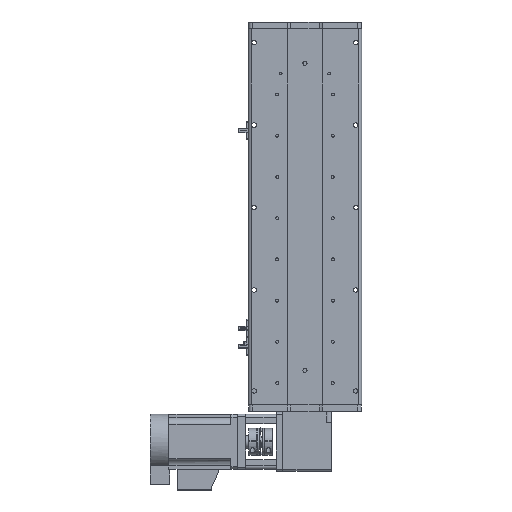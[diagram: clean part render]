
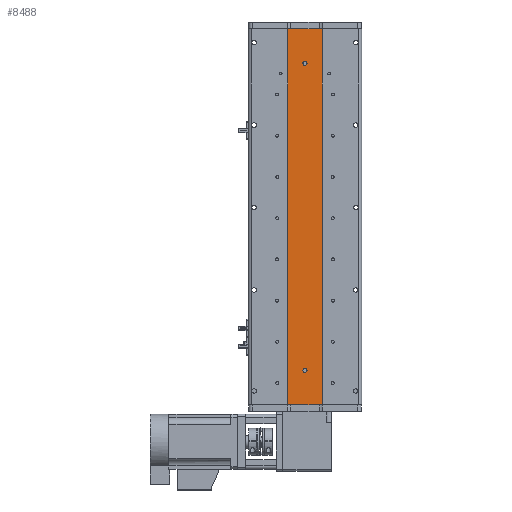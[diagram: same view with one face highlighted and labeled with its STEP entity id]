
A CAD part, front view. The second image highlights one B-rep face of the part: STEP entity #8488.
In plain terms, the highlighted planar face has unit normal (0, -1, 0).
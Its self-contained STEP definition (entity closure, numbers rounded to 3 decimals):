
#210 = AXIS2_PLACEMENT_3D ( 'NONE', #9228, #33561, #12746 ) ;
#1092 = EDGE_CURVE ( 'NONE', #10243, #5296, #36604, .T. ) ;
#2241 = ORIENTED_EDGE ( 'NONE', *, *, #38727, .T. ) ;
#3009 = ORIENTED_EDGE ( 'NONE', *, *, #25254, .T. ) ;
#3156 = CARTESIAN_POINT ( 'NONE',  ( 0., 1., -226.5 ) ) ;
#3469 = ORIENTED_EDGE ( 'NONE', *, *, #24390, .T. ) ;
#4896 = VERTEX_POINT ( 'NONE', #38586 ) ;
#5296 = VERTEX_POINT ( 'NONE', #20819 ) ;
#5843 = ORIENTED_EDGE ( 'NONE', *, *, #13680, .T. ) ;
#6695 = DIRECTION ( 'NONE',  ( 0., 1., 0. ) ) ;
#7777 = CARTESIAN_POINT ( 'NONE',  ( -25., 1., 273.5 ) ) ;
#7788 = EDGE_LOOP ( 'NONE', ( #2241, #31061, #34557, #3469 ) ) ;
#8463 = CARTESIAN_POINT ( 'NONE',  ( 0., 1., 223.5 ) ) ;
#8488 = ADVANCED_FACE ( 'NONE', ( #26025, #34141, #33056 ), #23901, .F. ) ;
#8879 = VECTOR ( 'NONE', #13019, 1000. ) ;
#9228 = CARTESIAN_POINT ( 'NONE',  ( 0., 1., -223.5 ) ) ;
#9538 = CARTESIAN_POINT ( 'NONE',  ( 25., 1., 273.5 ) ) ;
#10210 = CARTESIAN_POINT ( 'NONE',  ( 0., 1., 223.5 ) ) ;
#10243 = VERTEX_POINT ( 'NONE', #24874 ) ;
#11681 = EDGE_LOOP ( 'NONE', ( #3009, #5843 ) ) ;
#11967 = DIRECTION ( 'NONE',  ( 0., 0., 1. ) ) ;
#12746 = DIRECTION ( 'NONE',  ( 0., 0., 1. ) ) ;
#13019 = DIRECTION ( 'NONE',  ( 1., 0., 0. ) ) ;
#13456 = VERTEX_POINT ( 'NONE', #41421 ) ;
#13680 = EDGE_CURVE ( 'NONE', #16143, #19004, #37270, .T. ) ;
#13695 = DIRECTION ( 'NONE',  ( 0., 0., 1. ) ) ;
#14138 = EDGE_LOOP ( 'NONE', ( #35001, #33245 ) ) ;
#14156 = DIRECTION ( 'NONE',  ( 0., 1., 0. ) ) ;
#14832 = CARTESIAN_POINT ( 'NONE',  ( 25., 1., -273.5 ) ) ;
#15336 = VECTOR ( 'NONE', #22544, 1000. ) ;
#16143 = VERTEX_POINT ( 'NONE', #28410 ) ;
#16293 = LINE ( 'NONE', #42711, #24448 ) ;
#16408 = LINE ( 'NONE', #32535, #15336 ) ;
#17692 = CIRCLE ( 'NONE', #24557, 3. ) ;
#17955 = AXIS2_PLACEMENT_3D ( 'NONE', #24055, #6695, #30999 ) ;
#18817 = AXIS2_PLACEMENT_3D ( 'NONE', #34975, #14156, #38426 ) ;
#19004 = VERTEX_POINT ( 'NONE', #3156 ) ;
#20819 = CARTESIAN_POINT ( 'NONE',  ( 25., 1., 273.5 ) ) ;
#21638 = DIRECTION ( 'NONE',  ( 0., 0., -1. ) ) ;
#22544 = DIRECTION ( 'NONE',  ( 0., 0., -1. ) ) ;
#23092 = AXIS2_PLACEMENT_3D ( 'NONE', #10210, #34509, #13695 ) ;
#23280 = CIRCLE ( 'NONE', #18817, 3. ) ;
#23355 = VECTOR ( 'NONE', #21638, 1000. ) ;
#23901 = PLANE ( 'NONE',  #17955 ) ;
#24055 = CARTESIAN_POINT ( 'NONE',  ( 25., 1., 273.5 ) ) ;
#24390 = EDGE_CURVE ( 'NONE', #10243, #4896, #42842, .T. ) ;
#24448 = VECTOR ( 'NONE', #39359, 1000. ) ;
#24557 = AXIS2_PLACEMENT_3D ( 'NONE', #8463, #32787, #11967 ) ;
#24643 = VERTEX_POINT ( 'NONE', #36774 ) ;
#24874 = CARTESIAN_POINT ( 'NONE',  ( -25., 1., 273.5 ) ) ;
#25254 = EDGE_CURVE ( 'NONE', #19004, #16143, #23280, .T. ) ;
#26025 = FACE_BOUND ( 'NONE', #11681, .T. ) ;
#27067 = CIRCLE ( 'NONE', #23092, 3. ) ;
#28410 = CARTESIAN_POINT ( 'NONE',  ( 0., 1., -220.5 ) ) ;
#29875 = EDGE_CURVE ( 'NONE', #5296, #41802, #16408, .T. ) ;
#30999 = DIRECTION ( 'NONE',  ( 0., 0., 1. ) ) ;
#31061 = ORIENTED_EDGE ( 'NONE', *, *, #29875, .F. ) ;
#32535 = CARTESIAN_POINT ( 'NONE',  ( 25., 1., 273.5 ) ) ;
#32787 = DIRECTION ( 'NONE',  ( 0., 1., 0. ) ) ;
#33056 = FACE_OUTER_BOUND ( 'NONE', #7788, .T. ) ;
#33245 = ORIENTED_EDGE ( 'NONE', *, *, #42262, .T. ) ;
#33561 = DIRECTION ( 'NONE',  ( 0., 1., 0. ) ) ;
#34141 = FACE_BOUND ( 'NONE', #14138, .T. ) ;
#34509 = DIRECTION ( 'NONE',  ( 0., 1., 0. ) ) ;
#34557 = ORIENTED_EDGE ( 'NONE', *, *, #1092, .F. ) ;
#34975 = CARTESIAN_POINT ( 'NONE',  ( 0., 1., -223.5 ) ) ;
#35001 = ORIENTED_EDGE ( 'NONE', *, *, #35126, .T. ) ;
#35126 = EDGE_CURVE ( 'NONE', #24643, #13456, #17692, .T. ) ;
#36604 = LINE ( 'NONE', #9538, #8879 ) ;
#36774 = CARTESIAN_POINT ( 'NONE',  ( 0., 1., 220.5 ) ) ;
#37270 = CIRCLE ( 'NONE', #210, 3. ) ;
#38426 = DIRECTION ( 'NONE',  ( 0., 0., 1. ) ) ;
#38586 = CARTESIAN_POINT ( 'NONE',  ( -25., 1., -273.5 ) ) ;
#38727 = EDGE_CURVE ( 'NONE', #4896, #41802, #16293, .T. ) ;
#39359 = DIRECTION ( 'NONE',  ( 1., 0., 0. ) ) ;
#41421 = CARTESIAN_POINT ( 'NONE',  ( 0., 1., 226.5 ) ) ;
#41802 = VERTEX_POINT ( 'NONE', #14832 ) ;
#42262 = EDGE_CURVE ( 'NONE', #13456, #24643, #27067, .T. ) ;
#42711 = CARTESIAN_POINT ( 'NONE',  ( 25., 1., -273.5 ) ) ;
#42842 = LINE ( 'NONE', #7777, #23355 ) ;
